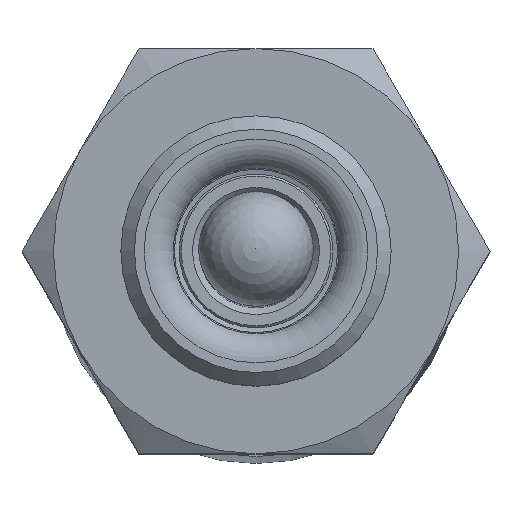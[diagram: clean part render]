
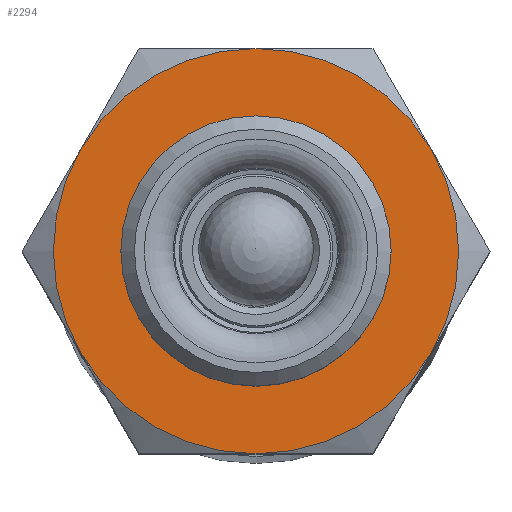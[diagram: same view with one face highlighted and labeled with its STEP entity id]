
A CAD part, top view. The second image highlights one B-rep face of the part: STEP entity #2294.
In plain terms, the highlighted planar face has unit normal (0, 0, 1) as drawn and (1, 0, 0) by its records, which use the part's own axes.
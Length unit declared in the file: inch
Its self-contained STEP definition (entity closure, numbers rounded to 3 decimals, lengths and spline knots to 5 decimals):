
#163=FACE_BOUND('',#541,.T.);
#218=PLANE('',#2666);
#355=FACE_OUTER_BOUND('',#540,.T.);
#540=EDGE_LOOP('',(#1919,#1920,#1921,#1922,#1923,#1924));
#541=EDGE_LOOP('',(#1925));
#931=CIRCLE('',#2665,0.25006);
#932=CIRCLE('',#2667,0.375);
#933=CIRCLE('',#2668,0.375);
#934=CIRCLE('',#2669,0.375);
#935=CIRCLE('',#2670,0.375);
#936=CIRCLE('',#2671,0.375);
#937=CIRCLE('',#2672,0.375);
#1106=VERTEX_POINT('',#4257);
#1107=VERTEX_POINT('',#4261);
#1108=VERTEX_POINT('',#4262);
#1109=VERTEX_POINT('',#4264);
#1110=VERTEX_POINT('',#4266);
#1111=VERTEX_POINT('',#4268);
#1112=VERTEX_POINT('',#4270);
#1378=EDGE_CURVE('',#1106,#1106,#931,.T.);
#1380=EDGE_CURVE('',#1107,#1108,#932,.T.);
#1381=EDGE_CURVE('',#1108,#1109,#933,.T.);
#1382=EDGE_CURVE('',#1109,#1110,#934,.T.);
#1383=EDGE_CURVE('',#1110,#1111,#935,.T.);
#1384=EDGE_CURVE('',#1111,#1112,#936,.T.);
#1385=EDGE_CURVE('',#1112,#1107,#937,.T.);
#1919=ORIENTED_EDGE('',*,*,#1380,.T.);
#1920=ORIENTED_EDGE('',*,*,#1381,.T.);
#1921=ORIENTED_EDGE('',*,*,#1382,.T.);
#1922=ORIENTED_EDGE('',*,*,#1383,.T.);
#1923=ORIENTED_EDGE('',*,*,#1384,.T.);
#1924=ORIENTED_EDGE('',*,*,#1385,.T.);
#1925=ORIENTED_EDGE('',*,*,#1378,.F.);
#2294=ADVANCED_FACE('',(#355,#163),#218,.T.);
#2665=AXIS2_PLACEMENT_3D('',#4258,#3361,#3362);
#2666=AXIS2_PLACEMENT_3D('',#4260,#3364,#3365);
#2667=AXIS2_PLACEMENT_3D('',#4263,#3366,#3367);
#2668=AXIS2_PLACEMENT_3D('',#4265,#3368,#3369);
#2669=AXIS2_PLACEMENT_3D('',#4267,#3370,#3371);
#2670=AXIS2_PLACEMENT_3D('',#4269,#3372,#3373);
#2671=AXIS2_PLACEMENT_3D('',#4271,#3374,#3375);
#2672=AXIS2_PLACEMENT_3D('',#4272,#3376,#3377);
#3361=DIRECTION('center_axis',(1.,0.,0.));
#3362=DIRECTION('ref_axis',(0.,0.,1.));
#3364=DIRECTION('center_axis',(1.,0.,0.));
#3365=DIRECTION('ref_axis',(0.,0.,-1.));
#3366=DIRECTION('center_axis',(1.,0.,0.));
#3367=DIRECTION('ref_axis',(0.,1.,0.));
#3368=DIRECTION('center_axis',(1.,0.,0.));
#3369=DIRECTION('ref_axis',(0.,1.,0.));
#3370=DIRECTION('center_axis',(1.,0.,0.));
#3371=DIRECTION('ref_axis',(0.,1.,0.));
#3372=DIRECTION('center_axis',(1.,0.,0.));
#3373=DIRECTION('ref_axis',(0.,1.,0.));
#3374=DIRECTION('center_axis',(1.,0.,0.));
#3375=DIRECTION('ref_axis',(0.,1.,0.));
#3376=DIRECTION('center_axis',(1.,0.,0.));
#3377=DIRECTION('ref_axis',(0.,1.,0.));
#4257=CARTESIAN_POINT('',(0.448,0.,-0.25006));
#4258=CARTESIAN_POINT('Origin',(0.448,0.,0.));
#4260=CARTESIAN_POINT('Origin',(0.448,0.,0.));
#4261=CARTESIAN_POINT('',(0.448,-0.32476,-0.1875));
#4262=CARTESIAN_POINT('',(0.448,0.,-0.375));
#4263=CARTESIAN_POINT('Origin',(0.448,0.,0.));
#4264=CARTESIAN_POINT('',(0.448,0.32476,-0.1875));
#4265=CARTESIAN_POINT('Origin',(0.448,0.,0.));
#4266=CARTESIAN_POINT('',(0.448,0.32476,0.1875));
#4267=CARTESIAN_POINT('Origin',(0.448,0.,0.));
#4268=CARTESIAN_POINT('',(0.448,0.,0.375));
#4269=CARTESIAN_POINT('Origin',(0.448,0.,0.));
#4270=CARTESIAN_POINT('',(0.448,-0.32476,0.1875));
#4271=CARTESIAN_POINT('Origin',(0.448,0.,0.));
#4272=CARTESIAN_POINT('Origin',(0.448,0.,0.));
